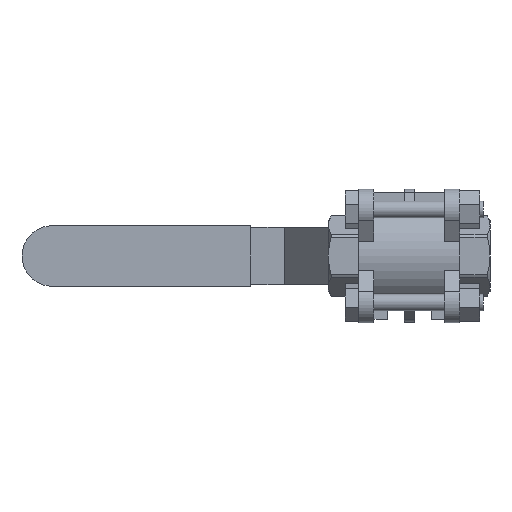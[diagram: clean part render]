
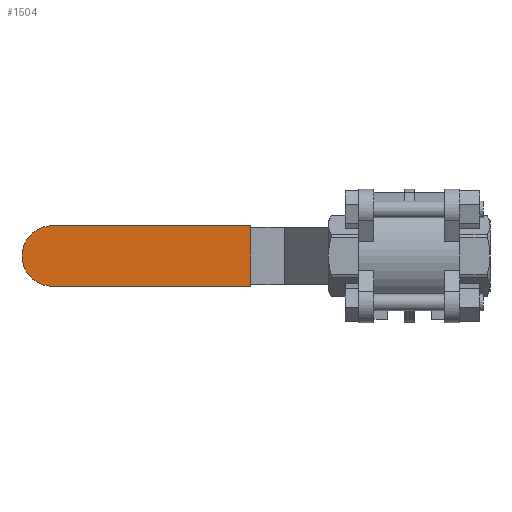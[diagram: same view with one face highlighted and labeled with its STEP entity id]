
A CAD part, front view. The second image highlights one B-rep face of the part: STEP entity #1504.
In plain terms, the highlighted planar face has unit normal (0, -1, 0).
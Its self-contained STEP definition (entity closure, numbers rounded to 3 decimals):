
#316 = VERTEX_POINT ( 'NONE', #573 ) ;
#485 = CARTESIAN_POINT ( 'NONE',  ( -115., 55.5, -9. ) ) ;
#536 = DIRECTION ( 'NONE',  ( 0., 1., 0. ) ) ;
#573 = CARTESIAN_POINT ( 'NONE',  ( -47., 55.5, -9. ) ) ;
#978 = EDGE_CURVE ( 'NONE', #7754, #316, #3761, .T. ) ;
#1504 = ADVANCED_FACE ( 'NONE', ( #3265 ), #8286, .F. ) ;
#1527 = LINE ( 'NONE', #4721, #6469 ) ;
#1582 = ORIENTED_EDGE ( 'NONE', *, *, #3774, .T. ) ;
#2014 = EDGE_CURVE ( 'NONE', #7380, #316, #2653, .T. ) ;
#2168 = EDGE_CURVE ( 'NONE', #7754, #5141, #5063, .T. ) ;
#2192 = ORIENTED_EDGE ( 'NONE', *, *, #978, .T. ) ;
#2653 = LINE ( 'NONE', #2676, #8006 ) ;
#2676 = CARTESIAN_POINT ( 'NONE',  ( -47., 55.5, 77.618 ) ) ;
#2728 = AXIS2_PLACEMENT_3D ( 'NONE', #2744, #7260, #3394 ) ;
#2744 = CARTESIAN_POINT ( 'NONE',  ( -106., 55.5, 0. ) ) ;
#3119 = CARTESIAN_POINT ( 'NONE',  ( -106., 55.5, -9. ) ) ;
#3265 = FACE_OUTER_BOUND ( 'NONE', #7589, .T. ) ;
#3394 = DIRECTION ( 'NONE',  ( 0., 0., 1. ) ) ;
#3470 = DIRECTION ( 'NONE',  ( -1., 0., 0. ) ) ;
#3509 = CARTESIAN_POINT ( 'NONE',  ( -106., 55.5, 9. ) ) ;
#3574 = VECTOR ( 'NONE', #6327, 1000. ) ;
#3761 = LINE ( 'NONE', #485, #3574 ) ;
#3774 = EDGE_CURVE ( 'NONE', #7380, #5141, #1527, .T. ) ;
#4418 = CARTESIAN_POINT ( 'NONE',  ( -115., 55.5, 77.618 ) ) ;
#4721 = CARTESIAN_POINT ( 'NONE',  ( -115., 55.5, 9. ) ) ;
#5013 = ORIENTED_EDGE ( 'NONE', *, *, #2014, .F. ) ;
#5063 = CIRCLE ( 'NONE', #2728, 9. ) ;
#5067 = DIRECTION ( 'NONE',  ( 0., 0., 1. ) ) ;
#5141 = VERTEX_POINT ( 'NONE', #3509 ) ;
#5325 = ORIENTED_EDGE ( 'NONE', *, *, #2168, .F. ) ;
#6257 = CARTESIAN_POINT ( 'NONE',  ( -47., 55.5, 9. ) ) ;
#6327 = DIRECTION ( 'NONE',  ( 1., 0., 0. ) ) ;
#6469 = VECTOR ( 'NONE', #3470, 1000. ) ;
#6545 = DIRECTION ( 'NONE',  ( 0., 0., -1. ) ) ;
#7088 = AXIS2_PLACEMENT_3D ( 'NONE', #4418, #536, #5067 ) ;
#7260 = DIRECTION ( 'NONE',  ( 0., 1., 0. ) ) ;
#7380 = VERTEX_POINT ( 'NONE', #6257 ) ;
#7589 = EDGE_LOOP ( 'NONE', ( #1582, #5325, #2192, #5013 ) ) ;
#7754 = VERTEX_POINT ( 'NONE', #3119 ) ;
#8006 = VECTOR ( 'NONE', #6545, 1000. ) ;
#8286 = PLANE ( 'NONE',  #7088 ) ;
